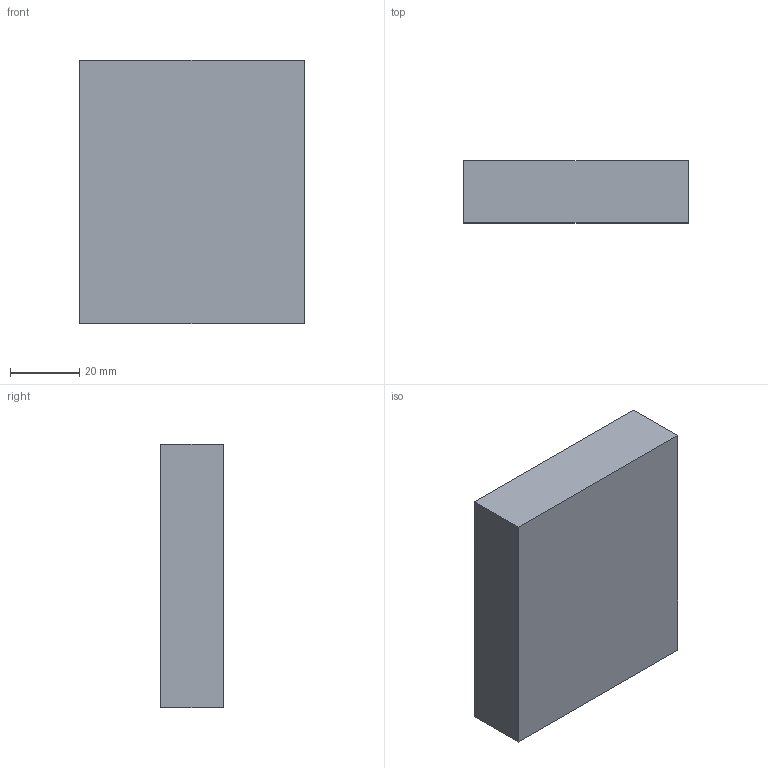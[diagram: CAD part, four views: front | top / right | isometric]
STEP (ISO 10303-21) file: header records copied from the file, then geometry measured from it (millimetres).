
FILE_DESCRIPTION(('Open CASCADE Model'),'2;1');
FILE_NAME('Open CASCADE Shape Model','2026-09-19T23:46:39',('Author'),( 'Open CASCADE'),'Open CASCADE STEP processor 7.9','Open CASCADE 7.9' ,'Unknown');
FILE_SCHEMA(('AUTOMOTIVE_DESIGN { 1 0 10303 214 1 1 1 1 }'));
Length unit declared in the file: millimetre
Products named in the file (1): Open CASCADE STEP translator 7.9 16
Bounding box: 65 x 18 x 76 mm (x, y, z)
Volume: 88920 mm3; surface area: 14956 mm2
Topology: 1 solids, 1 shells, 6 faces, 12 edges, 8 vertices
Faces by surface type: plane 6
Entity records: 322 total; most frequent: CARTESIAN_POINT 51, DIRECTION 50, LINE 36, VECTOR 36, ORIENTED_EDGE 24, PCURVE 24, DEFINITIONAL_REPRESENTATION 24, EDGE_CURVE 12
